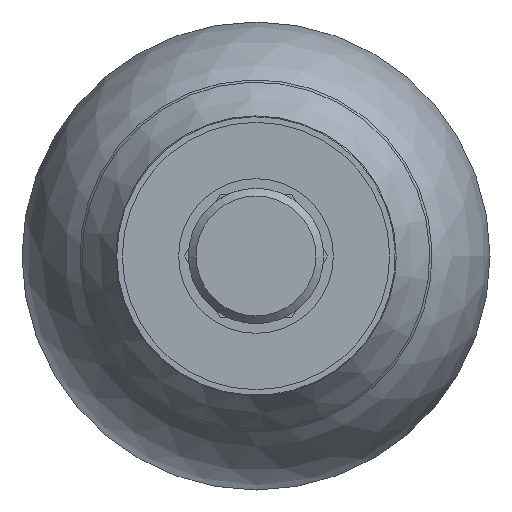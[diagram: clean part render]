
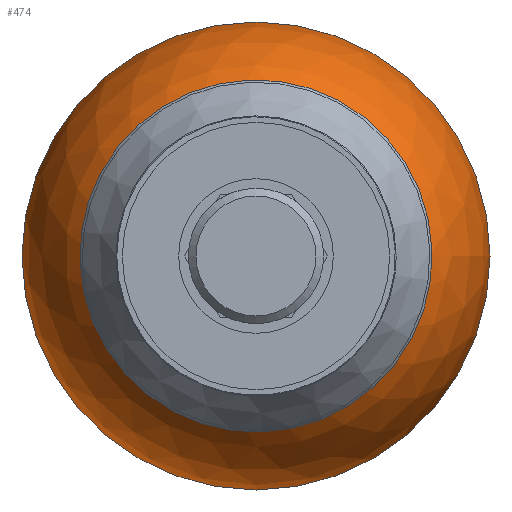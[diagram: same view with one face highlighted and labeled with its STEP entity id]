
A CAD part, left-side view. The second image highlights one B-rep face of the part: STEP entity #474.
In plain terms, the highlighted spherical face has radius 60.5 mm.
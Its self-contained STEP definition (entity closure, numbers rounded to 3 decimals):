
#364=CARTESIAN_POINT('',(-140.659,-57.5,0.));
#365=VERTEX_POINT('',#364);
#366=CARTESIAN_POINT('',(-140.659,3.,0.0));
#367=DIRECTION('',(1.0,0.0,0.0));
#368=DIRECTION('',(0.0,1.0,0.0));
#369=AXIS2_PLACEMENT_3D('',#366,#367,#368);
#370=CIRCLE('',#369,60.5);
#371=EDGE_CURVE('',#365,#365,#370,.T.);
#448=CARTESIAN_POINT('',(-197.757,23.,0.0));
#449=VERTEX_POINT('',#448);
#450=CARTESIAN_POINT('',(-197.757,3.,0.0));
#451=DIRECTION('',(1.0,0.0,0.0));
#452=DIRECTION('',(0.0,1.0,0.0));
#453=AXIS2_PLACEMENT_3D('',#450,#451,#452);
#454=CIRCLE('',#453,20.0);
#455=EDGE_CURVE('',#449,#449,#454,.T.);
#463=CARTESIAN_POINT('',(-140.659,3.,0.0));
#464=DIRECTION('',(1.0,0.0,0.0));
#465=DIRECTION('',(0.0,-1.0,0.0));
#466=AXIS2_PLACEMENT_3D('',#463,#464,#465);
#467=SPHERICAL_SURFACE('',#466,60.5);
#468=ORIENTED_EDGE('',*,*,#371,.F.);
#469=EDGE_LOOP('',(#468));
#470=FACE_OUTER_BOUND('',#469,.T.);
#471=ORIENTED_EDGE('',*,*,#455,.T.);
#472=EDGE_LOOP('',(#471));
#473=FACE_BOUND('',#472,.T.);
#474=ADVANCED_FACE('',(#470,#473),#467,.T.);
